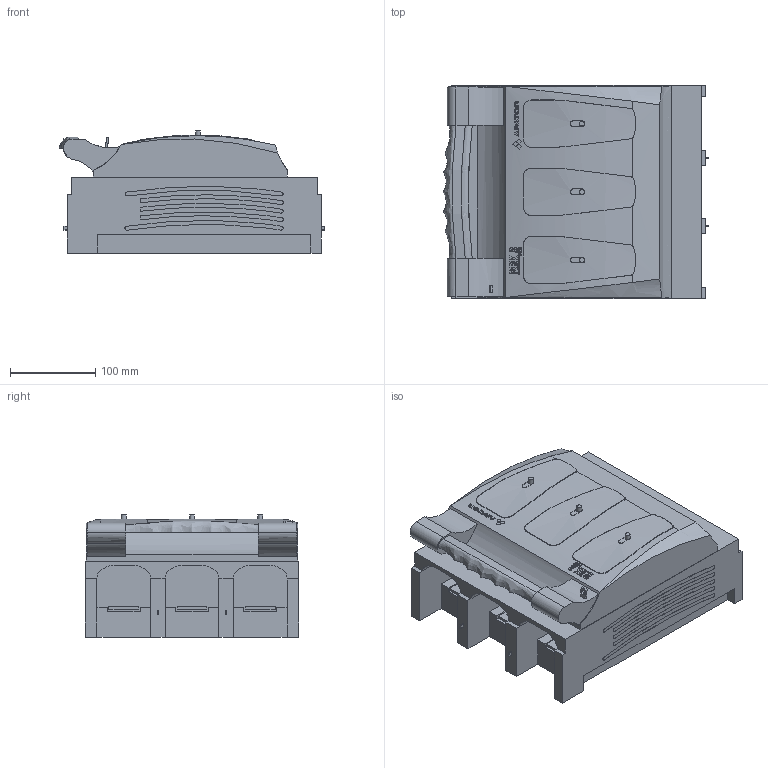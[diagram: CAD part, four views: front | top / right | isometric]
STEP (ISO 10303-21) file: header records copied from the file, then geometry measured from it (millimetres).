
FILE_DESCRIPTION(/* description */ (''),/* implementation_level */ '2;1');
FILE_NAME(/* name */ 'RBK 3 pro SM.stp',/* time_stamp */ '2019-02-21T10:40:12+01:00',/* author */ (''),/* organization */ (''),/* preprocessor_version */ 'ST-DEVELOPER v16',/* originating_system */ 'SIEMENS PLM Software NX 10.0',/* authorisation */ '');
FILE_SCHEMA (('AUTOMOTIVE_DESIGN { 1 0 10303 214 3 1 1 1 }'));
Products named in the file (1): 710_13BC62B99lgz
Bounding box: 311.67 x 250 x 143.6 mm (x, y, z)
Volume: 7321642.1 mm3; surface area: 386856.6 mm2
Topology: 1 solids, 2 shells, 1281 faces, 3624 edges, 2419 vertices
Faces by surface type: extrusion 663, plane 364, cylinder 190, bspline 46, cone 18
Full cylindrical faces by diameter (mm): 8 x1, 11.105 x4, 13 x6
Entity records: 53391 total; most frequent: CARTESIAN_POINT 21165, ORIENTED_EDGE 7212, DIRECTION 5472, EDGE_CURVE 3606, VERTEX_POINT 2419, VECTOR 2346, LINE 1683, B_SPLINE_CURVE_WITH_KNOTS 1592
